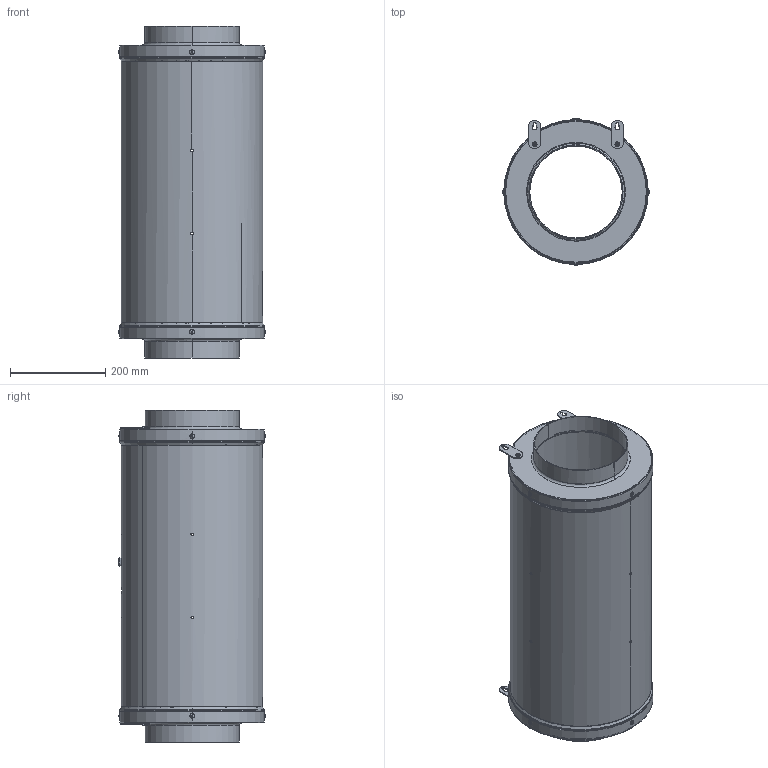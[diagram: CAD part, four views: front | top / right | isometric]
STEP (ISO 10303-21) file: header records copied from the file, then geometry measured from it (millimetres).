
FILE_DESCRIPTION((''),'2;1');
FILE_NAME('200__ASM_ASM','2021-01-05T09:53:51',('Administrator'),(''),'CREO PARAMETRIC BY PTC INC, 2019010','CREO PARAMETRIC BY PTC INC, 2019010','');
FILE_SCHEMA(('CONFIG_CONTROL_DESIGN'));
Length unit declared in the file: millimetre
Products named in the file (26): MANIFOLD_SOLID_BREP_2980_1; MANIFOLD_SOLID_BREP_2985_1; MANIFOLD_SOLID_BREP_2989_1; MANIFOLD_SOLID_BREP_2998_1; MANIFOLD_SOLID_BREP_2999_1; MANIFOLD_SOLID_BREP_3000_1; MANIFOLD_SOLID_BREP_3001_1; MANIFOLD_SOLID_BREP_3002_14; MANIFOLD_SOLID_BREP_3003_1; MANIFOLD_SOLID_BREP_3004_1; MANIFOLD_SOLID_BREP_3005_1; MANIFOLD_SOLID_BREP_3006_1; MANIFOLD_SOLID_BREP_3007_1; MANIFOLD_SOLID_BREP_3008_1; MANIFOLD_SOLID_BREP_3009_1; MANIFOLD_SOLID_BREP_3010_1; MANIFOLD_SOLID_BREP_3011_1; MANIFOLD_SOLID_BREP_3012_1; MANIFOLD_SOLID_BREP_3013_1; MANIFOLD_SOLID_BREP_3014_1; MANIFOLD_SOLID_BREP_3016_1; MANIFOLD_SOLID_BREP_3017_1; MANIFOLD_SOLID_BREP_3023_1; ADMI4D584289EYK5_ASM_1_ASM; 200__ASM_2_ASM; 200__ASM_ASM
Assembly tree (25 placements, depth 4):
  200__ASM_ASM
    200__ASM_2_ASM
      ADMI4D584289EYK5_ASM_1_ASM
        MANIFOLD_SOLID_BREP_2980_1
        MANIFOLD_SOLID_BREP_2985_1
        MANIFOLD_SOLID_BREP_2989_1
        MANIFOLD_SOLID_BREP_2998_1
        MANIFOLD_SOLID_BREP_2999_1
        MANIFOLD_SOLID_BREP_3000_1
        MANIFOLD_SOLID_BREP_3001_1
        MANIFOLD_SOLID_BREP_3002_14
        MANIFOLD_SOLID_BREP_3003_1
        MANIFOLD_SOLID_BREP_3004_1
        MANIFOLD_SOLID_BREP_3005_1
        MANIFOLD_SOLID_BREP_3006_1
        MANIFOLD_SOLID_BREP_3007_1
        MANIFOLD_SOLID_BREP_3008_1
        MANIFOLD_SOLID_BREP_3009_1
        MANIFOLD_SOLID_BREP_3010_1
        MANIFOLD_SOLID_BREP_3011_1
        MANIFOLD_SOLID_BREP_3012_1
        MANIFOLD_SOLID_BREP_3013_1
        MANIFOLD_SOLID_BREP_3014_1
        MANIFOLD_SOLID_BREP_3016_1
        MANIFOLD_SOLID_BREP_3017_1
        MANIFOLD_SOLID_BREP_3023_1
Bounding box: 308 x 308.59 x 698.6 mm (x, y, z)
Volume: 901759.3 mm3; surface area: 1516691.5 mm2
Topology: 23 solids, 23 shells, 505 faces, 1332 edges, 870 vertices
Faces by surface type: cylinder 168, plane 147, torus 132, bspline 28, cone 24, sphere 4, extrusion 2
Entity records: 18226 total; most frequent: CARTESIAN_POINT 4655, DIRECTION 3042, ORIENTED_EDGE 2656, EDGE_CURVE 1328, AXIS2_PLACEMENT_3D 1310, VERTEX_POINT 870, CIRCLE 760, EDGE_LOOP 588
